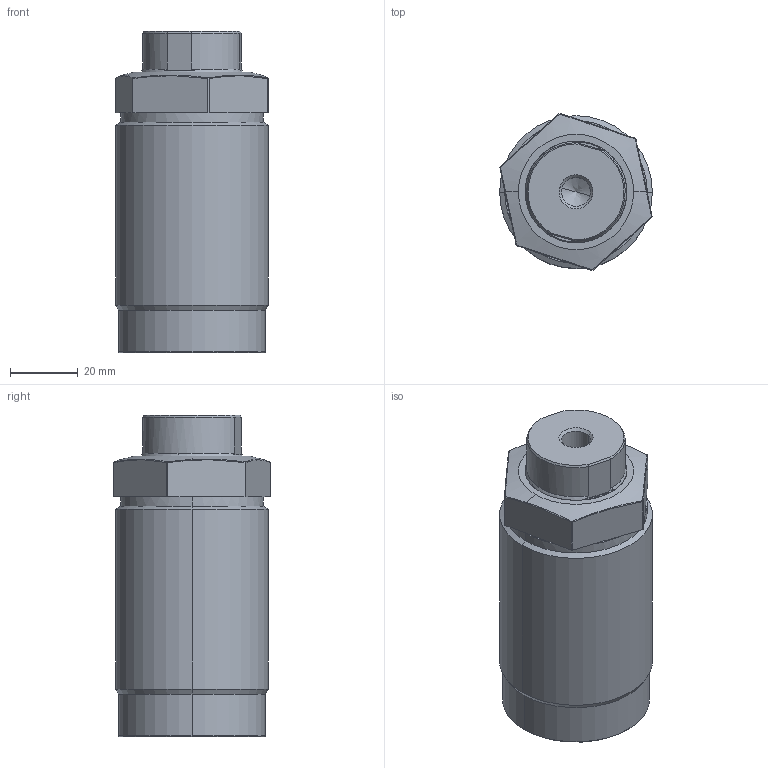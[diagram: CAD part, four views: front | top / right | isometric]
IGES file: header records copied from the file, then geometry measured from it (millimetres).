
Start section: SolidWorks IGES file using analytic representation for surfaces
Global section: file name: F:\THREADED BODY PUSHER-STD\TO3C-M455-L.IGS; native system: SolidWorks 2019; preprocessor: SolidWorks 2019; author: ADMIN; date: 200710.103325; units: millimetre
Bounding box: 45 x 46.2 x 94.7 mm (x, y, z)
Volume: 134628.4 mm3; surface area: 27331 mm2
Topology: 2 solids, 2 shells, 98 faces, 210 edges, 119 vertices
Faces by surface type: revolution 48, plane 44, bspline 6
